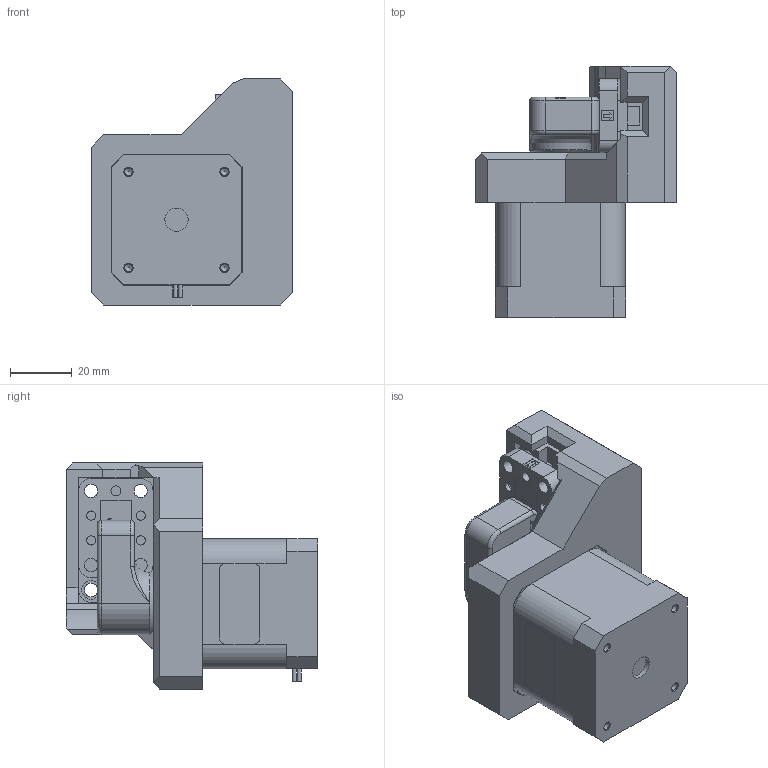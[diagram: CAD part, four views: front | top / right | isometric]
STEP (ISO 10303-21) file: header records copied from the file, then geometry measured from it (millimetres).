
FILE_DESCRIPTION(/* description */ (''),/* implementation_level */ '2;1');
FILE_NAME(/* name */ 'torsiometro_nema17.stp',/* time_stamp */ '2025-01-03T13:31:44+01:00',/* author */ ('R5800u'),/* organization */ (''),/* preprocessor_version */ 'ST-DEVELOPER v20',/* originating_system */ 'Autodesk Inventor 2025',/* authorisation */ '');
FILE_SCHEMA (('AUTOMOTIVE_DESIGN { 1 0 10303 214 3 1 1 }'));
Length unit declared in the file: millimetre
Products named in the file (6): Assieme2; M5 Mini Scales Unit; NEMA17_17HD48002H; blocco_base; perno; AS 1420 - 1973 - M3 x 12
Assembly tree (8 placements, depth 2):
  Assieme2
    M5 Mini Scales Unit
    NEMA17_17HD48002H
    blocco_base
    perno
    AS 1420 - 1973 - M3 x 12  x4
Bounding box: 65 x 81.15 x 73 mm (x, y, z)
Volume: 165683.2 mm3; surface area: 41667 mm2
Topology: 8 solids, 8 shells, 578 faces, 1498 edges, 977 vertices
Faces by surface type: plane 365, cylinder 95, bspline 76, cone 25, torus 17
Full cylindrical faces by diameter (mm): 1.25 x4, 2.5 x8, 3 x8, 3.2 x2, 3.4 x4, 4.3 x8, 5 x5, 5.5 x4, 6 x6, 7 x4, 7.5 x2, 9 x4, 22 x1, 25 x1, 33 x1
Entity records: 17238 total; most frequent: CARTESIAN_POINT 4003, ORIENTED_EDGE 2758, DIRECTION 2373, EDGE_CURVE 1379, LINE 1001, VECTOR 1001, VERTEX_POINT 904, AXIS2_PLACEMENT_3D 686
